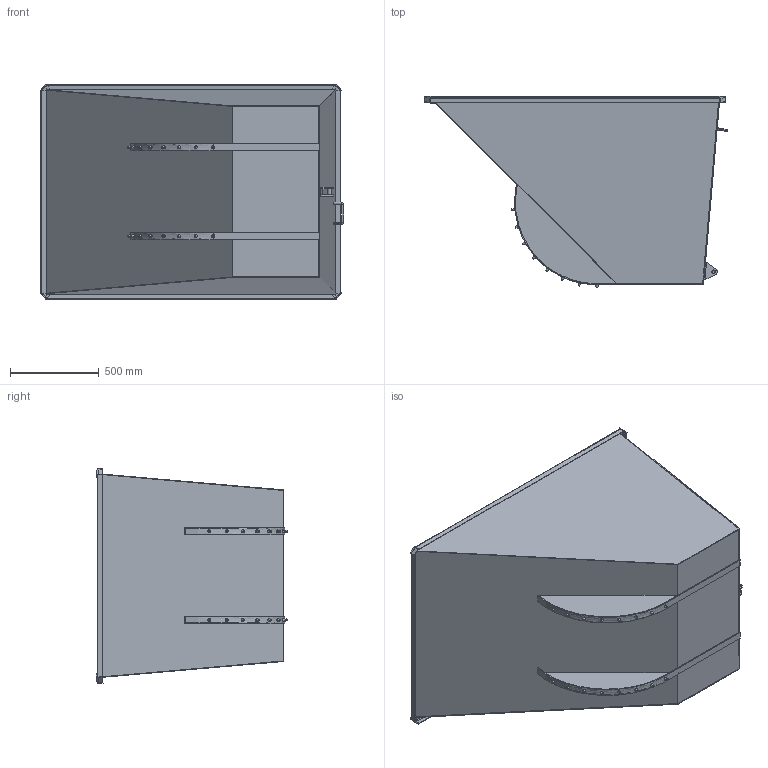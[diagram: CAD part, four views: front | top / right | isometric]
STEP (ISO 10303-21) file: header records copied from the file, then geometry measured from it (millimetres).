
FILE_DESCRIPTION (( 'STEP AP203' ), '1' );
FILE_NAME ('TS110-02須郪爾.STEP', '2025-10-29T13:01:43', ( '' ), ( '' ), 'SwSTEP 2.0', 'SolidWorks 2018', '' );
FILE_SCHEMA (( 'CONFIG_CONTROL_DESIGN' ));
Length unit declared in the file: millimetre
Products named in the file (14): TS110-02-05-Q235酘耜啣T3; TS110-02須郪爾; FXB-T8x50x100-Q345源倛啣; TS110-02-03-Q235說倛啣T5; TS110-02-04-Q235謂啣T5; TS110-02-02-Q235衵耜啣T3; TS90-04-01-Q345縐弇釱耜啣T8; YG-耳20-50-45#埴詩; TS110-02-01-01-Q235須翋啣T3; FXB-T3x961x485-Q235源倛啣; TS90-02-08-Q235嶺忒; TS110-02-01-02-Q235須翋啣T3; JG-T3x30#-45-Q235褒詩; TS90-02-05-45#隅弇翐
Assembly tree (34 placements, depth 2):
  TS110-02須郪爾
    TS110-02-01-01-Q235須翋啣T3
    TS110-02-01-02-Q235須翋啣T3
    FXB-T3x961x485-Q235源倛啣
    TS110-02-02-Q235衵耜啣T3
    TS110-02-03-Q235說倛啣T5  x2
    TS110-02-04-Q235謂啣T5  x2
    TS110-02-05-Q235酘耜啣T3
    TS90-02-05-45#隅弇翐  x16
    TS90-02-08-Q235嶺忒
    JG-T3x30#-45-Q235褒詩  x4
    FXB-T8x50x100-Q345源倛啣
    TS90-04-01-Q345縐弇釱耜啣T8  x2
    YG-耳20-50-45#埴詩
Bounding box: 1709.78 x 1078.3 x 1212.38 mm (x, y, z)
Volume: 19017514.4 mm3; surface area: 12274136 mm2
Topology: 34 solids, 34 shells, 446 faces, 963 edges, 597 vertices
Faces by surface type: plane 190, cylinder 90, cone 68, torus 68, bspline 30
Entity records: 8236 total; most frequent: CARTESIAN_POINT 2150, DIRECTION 829, ORIENTED_EDGE 826, EDGE_CURVE 413, AXIS2_PLACEMENT_3D 285, VERTEX_POINT 263, VECTOR 259, LINE 259
